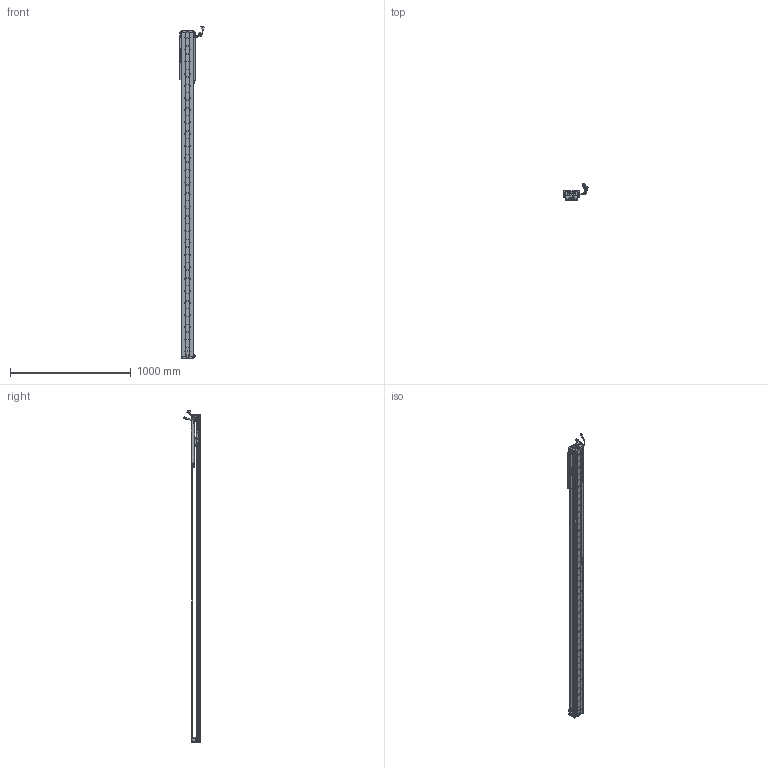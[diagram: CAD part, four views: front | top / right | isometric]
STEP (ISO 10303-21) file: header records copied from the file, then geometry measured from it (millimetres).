
FILE_DESCRIPTION (( 'STEP AP203' ), '1' );
FILE_NAME ('Z5-RY100D-1-L500-B-K.SLDASM_2250.step', '2021-05-17T03:34:43', ( '盈信电脑' ), ( '东莞市道滘镇水果街19号' ), 'SwSTEP 2.0', 'SolidWorks 2016', '' );
FILE_SCHEMA (( 'CONFIG_CONTROL_DESIGN' ));
Length unit declared in the file: millimetre
Products named in the file (36): LABEL; COVER; SCALE-Part-1; HARNESS-Part-2; PBU_SHEET; Z5-RY100D-1-L500-B-K.SLDASM_2250; SCREW-M1.7-1; HARNESS; SCREW-M1.6; COVER-Part-1; SCREW-M1.6-3; SEAL-Part-1; HARNESS-Part-1; Z5-RY100D-500-倰第菁釱_2250; SHIELDPLATE; Z5-RY100-L500詩湍90mm遵_2250; 140雄赽晤鎢ん堤盄; HOLDER0; Z-RY100D詩湍奻揤裔; Z5-RY100铝滑块（21款）; 140蚥薯蝶輸; SEAL; 榋妏寠巭燃_暯_M2_2; LABEL-Part-1; Z-RY100D詩湍狟揤裔; PSLH080_PSLF2; Z-100詩湍傷裔啣; SCREW-M1.6-2; 100-Z-臏賑輸盄裔(21遴); 080黍杅芛假蚾釱21遴; SCREW-M1.7; 覜茼ん672; SCREW-M1.6-1; SCALE; Z-RY100D覜茼んえ; SCALE-Part-2
Assembly tree (43 placements, depth 4):
  Z5-RY100D-1-L500-B-K.SLDASM_2250
    Z5-RY100D-500-倰第菁釱_2250
    Z5-RY100铝滑块（21款）
    PSLH080_PSLF2
      SCALE
        SCALE-Part-1
        SCALE-Part-2
      HARNESS
        HARNESS-Part-1
        HARNESS-Part-2
      LABEL
        LABEL-Part-1
      COVER
        COVER-Part-1
      SEAL
        SEAL-Part-1
      榋妏寠巭燃_暯_M2_2
      SHIELDPLATE
      SCREW-M1.7
      SCREW-M1.7-1
      PBU_SHEET
      SCREW-M1.6
      SCREW-M1.6-1
      SCREW-M1.6-2
      SCREW-M1.6-3
      HOLDER0
    080黍杅芛假蚾釱21遴
    Z-100詩湍傷裔啣  x2
    140蚥薯蝶輸  x2
    覜茼ん672  x3
    Z-RY100D覜茼んえ  x3
    100-Z-臏賑輸盄裔(21遴)
    140雄赽晤鎢ん堤盄
    Z5-RY100-L500詩湍90mm遵_2250
    Z-RY100D詩湍狟揤裔  x2
    Z-RY100D詩湍奻揤裔  x2
Bounding box: 205.79 x 136.11 x 2750.43 mm (x, y, z)
Volume: 5229498.1 mm3; surface area: 2026100.5 mm2
Topology: 38 solids, 38 shells, 3039 faces, 8299 edges, 5300 vertices
Faces by surface type: cylinder 1502, plane 1189, cone 226, torus 69, bspline 53
Entity records: 88177 total; most frequent: CARTESIAN_POINT 18443, DIRECTION 14241, ORIENTED_EDGE 13478, EDGE_CURVE 6739, AXIS2_PLACEMENT_3D 5362, VERTEX_POINT 4368, VECTOR 3517, LINE 3517
